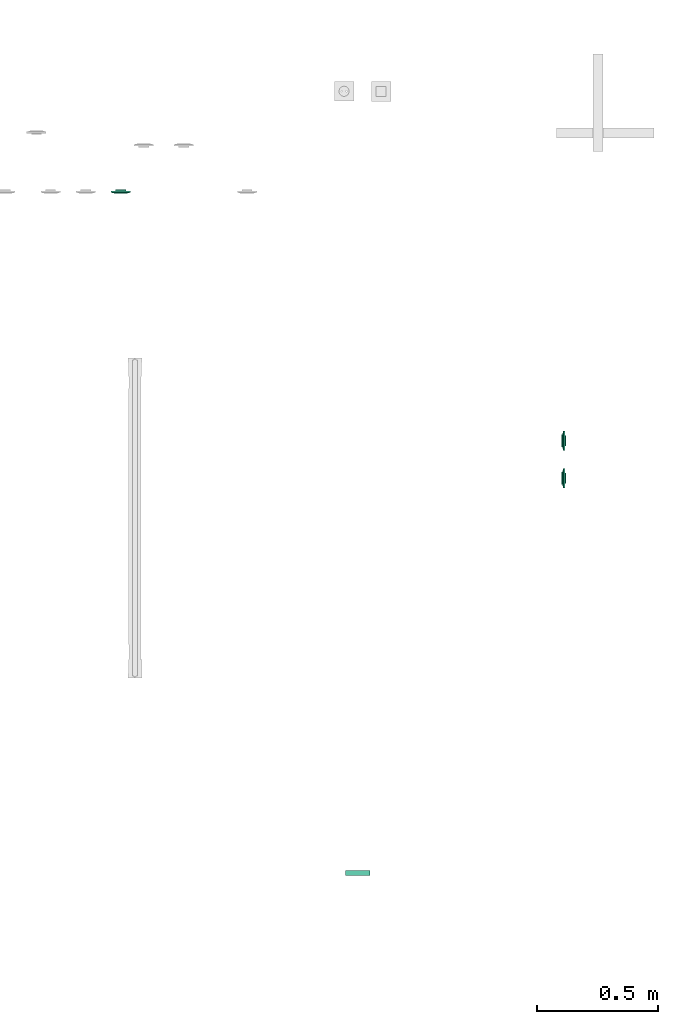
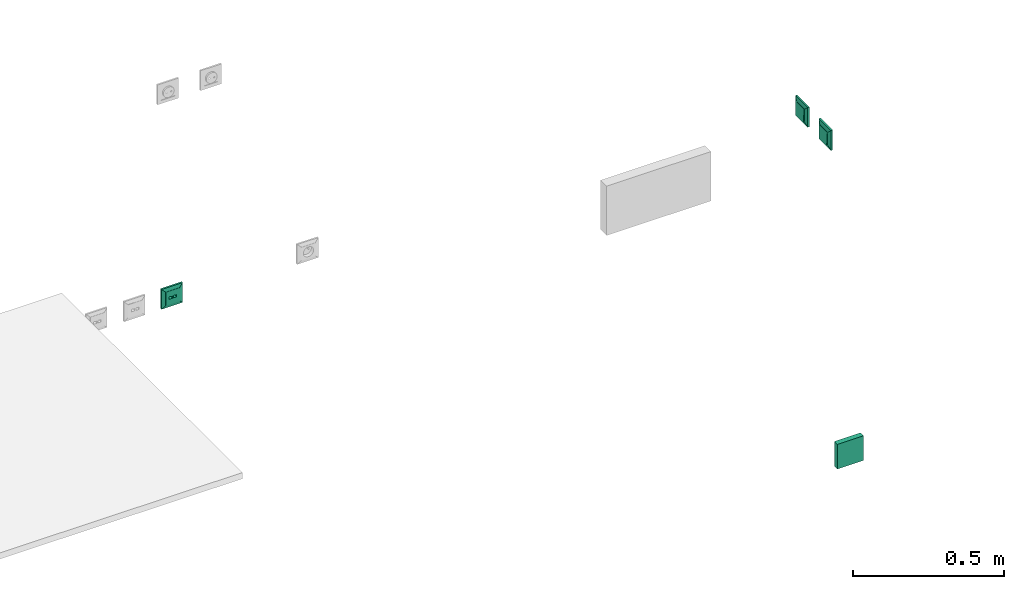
# One storey, part 54 of 146: 4 flow terminals.
"""IFC2X3 building model written with IfcOpenShell, lengths in metres."""

from ifc_helpers import new_model, entity, si_unit, converted_unit, derived_unit, direction, frame, origin, origin_2d_with_axis, place, context, subcontext, project, spatial, rectangle, extrude, faceted_brep, source, transform, mapped, type_object, type_shapes, element, save


model = new_model("IFC2X3")

# Units and contexts
model_context = context("Model", 3, precision=1e-05, world=origin(), true_north=direction((6.12303176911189e-17, 1.0)))
body_context = subcontext(model_context, "Body", "Model", "MODEL_VIEW")
ifc_project = project(units=[si_unit("LENGTHUNIT", "METRE"), si_unit("AREAUNIT", "SQUARE_METRE"), si_unit("VOLUMEUNIT", "CUBIC_METRE"), converted_unit("PLANEANGLEUNIT", "DEGREE", entity("IfcRatioMeasure", 0.0174532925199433), si_unit("PLANEANGLEUNIT", "RADIAN"), dimensions=[0, 0, 0, 0, 0, 0, 0]), si_unit("MASSUNIT", "GRAM", prefix="KILO"), derived_unit("MASSDENSITYUNIT", [(si_unit("MASSUNIT", "GRAM", prefix="KILO"), 1), (si_unit("LENGTHUNIT", "METRE"), -3)]), si_unit("TIMEUNIT", "SECOND"), si_unit("FREQUENCYUNIT", "HERTZ"), si_unit("THERMODYNAMICTEMPERATUREUNIT", "DEGREE_CELSIUS"), derived_unit("THERMALTRANSMITTANCEUNIT", [(si_unit("MASSUNIT", "GRAM", prefix="KILO"), 1), (si_unit("THERMODYNAMICTEMPERATUREUNIT", "KELVIN"), -1), (si_unit("TIMEUNIT", "SECOND"), -3)]), derived_unit("VOLUMETRICFLOWRATEUNIT", [(si_unit("LENGTHUNIT", "METRE"), 3), (si_unit("TIMEUNIT", "SECOND"), -1)]), si_unit("ELECTRICCURRENTUNIT", "AMPERE"), si_unit("ELECTRICVOLTAGEUNIT", "VOLT"), si_unit("POWERUNIT", "WATT"), si_unit("FORCEUNIT", "NEWTON"), si_unit("ILLUMINANCEUNIT", "LUX"), si_unit("LUMINOUSFLUXUNIT", "LUMEN"), si_unit("LUMINOUSINTENSITYUNIT", "CANDELA"), derived_unit("USERDEFINED", [(si_unit("MASSUNIT", "GRAM", prefix="KILO"), -1), (si_unit("LENGTHUNIT", "METRE"), -2), (si_unit("TIMEUNIT", "SECOND"), 3), (si_unit("LUMINOUSFLUXUNIT", "LUMEN"), 1)]), derived_unit("LINEARVELOCITYUNIT", [(si_unit("LENGTHUNIT", "METRE"), 1), (si_unit("TIMEUNIT", "SECOND"), -1)]), si_unit("PRESSUREUNIT", "PASCAL"), derived_unit("USERDEFINED", [(si_unit("LENGTHUNIT", "METRE"), -2), (si_unit("MASSUNIT", "GRAM", prefix="KILO"), 1), (si_unit("TIMEUNIT", "SECOND"), -2)])], contexts=[model_context])

# Site, building, storey
site_placement = place(None, origin())
site = spatial("IfcSite", under=ifc_project, at=site_placement, Name="Default", CompositionType="ELEMENT")
building_placement = place(site_placement, origin())
building = spatial("IfcBuilding", under=site, at=building_placement, CompositionType="ELEMENT")
storey_placement = place(building_placement, origin())
storey = spatial("IfcBuildingStorey", under=building, at=storey_placement, Name="S01", CompositionType="ELEMENT", Elevation=0.0)

# Flow terminals
electric_appliance_type = type_object("IfcElectricApplianceType", Name="RJ45 IP20", PredefinedType="NOTDEFINED")
shared_shape_1 = source(origin(), body_context, "Body", "Brep", [
    faceted_brep([(0.00200000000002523, 0.0, 0.00799999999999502), (0.00400000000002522, 0.0, 0.00799999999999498), (0.00500000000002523, 0.00199999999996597, 0.00799999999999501), (0.0110000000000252, 0.00199999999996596, 0.00799999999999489), (0.0120000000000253, 0.0, 0.00799999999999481), (0.0140000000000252, 0.0, 0.00799999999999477), (0.0140000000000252, 0.00399999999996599, 0.00799999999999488), (0.00200000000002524, 0.00399999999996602, 0.00799999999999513), (0.00200000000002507, 0.0, 0.0), (0.00200000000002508, 0.00399999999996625, 0.0), (0.0140000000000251, 0.00399999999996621, 0.0), (0.0140000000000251, 0.0, 0.0), (0.0120000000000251, 0.0, 0.0), (0.0110000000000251, 0.00199999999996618, 0.0), (0.00500000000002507, 0.0019999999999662, 0.0), (0.00400000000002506, 0.0, 0.0)], [[[0, 1, 2, 3, 4, 5, 6, 7]], [[8, 9, 10, 11, 12, 13, 14, 15]], [[1, 0, 8, 15]], [[2, 1, 15, 14]], [[3, 2, 14, 13]], [[4, 3, 13, 12]], [[5, 4, 12, 11]], [[6, 5, 11, 10]], [[7, 6, 10, 9]], [[0, 7, 9, 8]]]),
    faceted_brep([(-0.0139999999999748, 0.0, 0.00799999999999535), (-0.0119999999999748, 0.0, 0.00799999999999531), (-0.0109999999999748, 0.00199999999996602, 0.00799999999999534), (-0.00499999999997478, 0.00199999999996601, 0.00799999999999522), (-0.0039999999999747, 0.0, 0.00799999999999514), (-0.00199999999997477, 0.0, 0.0079999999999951), (-0.00199999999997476, 0.00399999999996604, 0.00799999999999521), (-0.0139999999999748, 0.00399999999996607, 0.00799999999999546), (-0.0139999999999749, 0.0, 0.0), (-0.0139999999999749, 0.00399999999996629, 0.0), (-0.00199999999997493, 0.00399999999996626, 0.0), (-0.00199999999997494, 0.0, 0.0), (-0.00399999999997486, 0.0, 0.0), (-0.00499999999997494, 0.00199999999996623, 0.0), (-0.0109999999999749, 0.00199999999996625, 0.0), (-0.0119999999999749, 0.0, 0.0)], [[[0, 1, 2, 3, 4, 5, 6, 7]], [[8, 9, 10, 11, 12, 13, 14, 15]], [[1, 0, 8, 15]], [[2, 1, 15, 14]], [[3, 2, 14, 13]], [[4, 3, 13, 12]], [[5, 4, 12, 11]], [[6, 5, 11, 10]], [[7, 6, 10, 9]], [[0, 7, 9, 8]]]),
    faceted_brep([(0.0140000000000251, 0.00399999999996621, 0.0), (0.00200000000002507, 0.00399999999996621, 0.0), (0.00200000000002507, -0.00350000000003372, 0.0), (0.0140000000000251, -0.00350000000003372, 0.0), (0.0140000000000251, 0.00399999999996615, 0.00199999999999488), (0.00200000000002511, 0.00399999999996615, 0.00199999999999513), (0.00200000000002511, -0.00393859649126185, 0.00199999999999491), (0.0140000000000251, -0.00393859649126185, 0.00199999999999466), (0.0210000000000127, 0.0209999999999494, 0.00199999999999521), (-0.0209999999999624, 0.0209999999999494, 0.00199999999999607), (-0.0209999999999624, -0.0210000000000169, 0.00199999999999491), (0.0210000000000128, -0.0210000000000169, 0.00199999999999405), (-0.0139999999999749, 0.0039999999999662, 0.00199999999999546), (-0.0019999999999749, 0.0039999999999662, 0.00199999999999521), (-0.00199999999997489, -0.0039385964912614, 0.00199999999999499), (-0.0139999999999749, -0.00393859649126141, 0.00199999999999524), (0.0210000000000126, 0.0209999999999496, -0.00460000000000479), (0.0210000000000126, -0.0210000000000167, -0.00460000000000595), (-0.0209999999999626, -0.0210000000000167, -0.00460000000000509), (-0.0209999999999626, 0.0209999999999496, -0.00460000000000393), (-0.00199999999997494, 0.00399999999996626, 0.0), (-0.0139999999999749, 0.00399999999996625, 0.0), (-0.0139999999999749, -0.00350000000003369, 0.0), (-0.00199999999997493, -0.00350000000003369, 0.0)], [[[0, 1, 2, 3]], [[1, 0, 4, 5]], [[2, 1, 5, 6]], [[3, 2, 6, 7]], [[0, 3, 7, 4]], [[5, 4, 7, 6], [8, 9, 10, 11], [12, 13, 14, 15]], [[16, 17, 18, 19]], [[9, 8, 16, 19]], [[10, 9, 19, 18]], [[11, 10, 18, 17]], [[8, 11, 17, 16]], [[20, 21, 22, 23]], [[21, 20, 13, 12]], [[22, 21, 12, 15]], [[23, 22, 15, 14]], [[20, 23, 14, 13]]], outer=[[True], [True], [True], [True], [True], [False, True, False], [True], [True], [True], [True], [True], [True], [True], [True], [True], [True]]),
    faceted_brep([(0.0270000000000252, 0.026999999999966, 0.0113999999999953), (-0.0269999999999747, 0.026999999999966, 0.0113999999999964), (-0.0269999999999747, -0.0270000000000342, 0.0113999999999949), (0.0270000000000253, -0.0270000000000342, 0.0113999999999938), (0.0020000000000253, 0.00399999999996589, 0.0113999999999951), (0.0140000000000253, 0.00399999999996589, 0.0113999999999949), (0.0140000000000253, -0.00600000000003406, 0.0113999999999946), (0.0020000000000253, -0.00600000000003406, 0.0113999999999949), (-0.0139999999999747, 0.00399999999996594, 0.0113999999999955), (-0.00199999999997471, 0.00399999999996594, 0.0113999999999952), (-0.00199999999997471, -0.0060000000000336, 0.0113999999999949), (-0.0139999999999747, -0.00600000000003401, 0.0113999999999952), (0.0270000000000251, 0.0269999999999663, 0.00199999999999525), (0.0270000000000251, -0.0270000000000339, 0.00199999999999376), (-0.0269999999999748, -0.0270000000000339, 0.00199999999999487), (-0.0269999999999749, 0.0269999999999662, 0.00199999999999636), (0.0140000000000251, 0.00399999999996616, 0.00199999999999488), (0.00200000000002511, 0.00399999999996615, 0.00199999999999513), (0.00200000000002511, -0.00393859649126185, 0.00199999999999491), (0.0140000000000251, -0.00393859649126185, 0.00199999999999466), (-0.00199999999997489, 0.0039999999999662, 0.00199999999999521), (-0.0139999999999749, 0.0039999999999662, 0.00199999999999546), (-0.0139999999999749, -0.0039385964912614, 0.00199999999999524), (-0.00199999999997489, -0.0039385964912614, 0.00199999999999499)], [[[0, 1, 2, 3], [4, 5, 6, 7], [8, 9, 10, 11]], [[12, 13, 14, 15], [16, 17, 18, 19], [20, 21, 22, 23]], [[1, 0, 12, 15]], [[2, 1, 15, 14]], [[3, 2, 14, 13]], [[0, 3, 13, 12]], [[4, 17, 16, 5]], [[17, 4, 7, 18]], [[18, 7, 6, 19]], [[5, 16, 19, 6]], [[8, 21, 20, 9]], [[21, 8, 11, 22]], [[22, 11, 10, 23]], [[9, 20, 23, 10]]]),
    faceted_brep([(0.027000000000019, 0.0269999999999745, 0.00659999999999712), (-0.0269999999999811, 0.0269999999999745, 0.00659999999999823), (-0.026999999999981, -0.0270000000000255, 0.00659999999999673), (0.027000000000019, -0.0270000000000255, 0.00659999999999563), (0.040350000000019, 0.0403499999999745, 0.00659999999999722), (0.040350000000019, -0.0403500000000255, 0.00659999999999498), (-0.0403499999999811, -0.0403500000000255, 0.00659999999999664), (-0.0403499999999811, 0.0403499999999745, 0.00659999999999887), (-0.026999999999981, 0.0269999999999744, 0.0103999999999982), (0.027000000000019, 0.0269999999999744, 0.0103999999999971), (-0.026999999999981, -0.0270000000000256, 0.0103999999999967), (0.027000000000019, -0.0270000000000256, 0.0103999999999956)], [[[0, 1, 2, 3], [4, 5, 6, 7]], [[4, 7, 8, 9]], [[7, 6, 10, 8]], [[6, 5, 11, 10]], [[5, 4, 9, 11]], [[0, 9, 8, 1]], [[1, 8, 10, 2]], [[2, 10, 11, 3]], [[9, 0, 3, 11]]], outer=[[False, True], [True], [True], [True], [True], [True], [True], [True], [True]]),
    faceted_brep([(0.040350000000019, 0.0403499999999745, 0.00659999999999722), (-0.0403499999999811, 0.0403499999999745, 0.00659999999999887), (-0.0403499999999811, -0.0403500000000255, 0.00659999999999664), (0.040350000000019, -0.0403500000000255, 0.00659999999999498), (-0.0269999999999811, 0.0269999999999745, 0.00659999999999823), (0.0270000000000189, 0.0269999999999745, 0.00659999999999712), (0.0270000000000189, -0.0270000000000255, 0.00659999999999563), (-0.0269999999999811, -0.0270000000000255, 0.00659999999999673), (0.0403500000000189, 0.0403499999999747, 0.0), (0.0403500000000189, -0.0403500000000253, 0.0), (-0.0403499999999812, -0.0403500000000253, 0.0), (-0.0403499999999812, 0.0403499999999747, 0.0), (0.0270000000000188, 0.0269999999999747, 0.0), (-0.0269999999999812, 0.0269999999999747, 0.0), (-0.0269999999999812, -0.0270000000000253, 0.0), (0.0270000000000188, -0.0270000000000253, 0.0)], [[[0, 1, 2, 3], [4, 5, 6, 7]], [[8, 9, 10, 11], [12, 13, 14, 15]], [[1, 0, 8, 11]], [[2, 1, 11, 10]], [[3, 2, 10, 9]], [[0, 3, 9, 8]], [[12, 5, 4, 13]], [[13, 4, 7, 14]], [[14, 7, 6, 15]], [[5, 12, 15, 6]]]),
])
type_shapes(electric_appliance_type, [shared_shape_1])
flow_terminal_1_placement = place(storey_placement, frame((51.6023114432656, -190.689444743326, 0.320000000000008), z_axis=(0.0, -1.0, 0.0), x_axis=(1.0, 0.0, 0.0)))
element("IfcFlowTerminal", 1, at=flow_terminal_1_placement, inside=storey, type_object=electric_appliance_type, Name="INT_Prise RJ45:RJ45 IP20", ObjectType="INT_Prise RJ45:RJ45 IP20", context=body_context, shape_type="MappedRepresentation", body=[
    mapped(shared_shape_1, transform((0.0, 0.0, 0.0), scale=1.0)),
])
light_fixture_type_1 = type_object("IfcLightFixtureType", Name="Default", PredefinedType="NOTDEFINED")
shared_shape_2 = source(origin(), body_context, "Body", "SweptSolid", [
    extrude(rectangle(XDim=0.1, YDim=0.1, at=origin_2d_with_axis()), frame((0.0, 0.0, 0.0), z_axis=(0.0, 0.0, 1.0), x_axis=(0.0, 1.0, 0.0)), (0.0, 0.0, 1.0), 0.02),
])
type_shapes(light_fixture_type_1, [shared_shape_2])
flow_terminal_2_placement = place(storey_placement, frame((52.5782599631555, -193.489651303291, 1.05000000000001), z_axis=(0.0, -1.0, 0.0), x_axis=(1.0, 0.0, 0.0)))
element("IfcFlowTerminal", 2, at=flow_terminal_2_placement, inside=storey, type_object=light_fixture_type_1, Name="E_Reader_Badge 1_F_MEPcontent:Default", ObjectType="E_Reader_Badge 1_F_MEPcontent:Default", context=body_context, shape_type="MappedRepresentation", body=[
    mapped(shared_shape_2, transform((0.0, 0.0, 0.0), scale=1.0)),
])
light_fixture_type_2 = type_object("IfcLightFixtureType", Name="SA IP21", PredefinedType="NOTDEFINED")
shared_shape_3 = source(origin(), body_context, "Body", "Brep", [
    faceted_brep([(0.0, 0.0209999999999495, -0.00460000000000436), (0.00543519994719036, 0.02028444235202, -0.00460000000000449), (0.0105000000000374, 0.0181865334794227, -0.00460000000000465), (0.0148492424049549, 0.014849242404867, -0.00460000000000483), (0.0181865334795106, 0.0104999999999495, -0.00460000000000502), (0.0202844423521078, 0.00543519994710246, -0.00460000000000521), (0.0210000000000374, 0.0, -0.00460000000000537), (0.0202844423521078, -0.00543519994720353, -0.00460000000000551), (0.0181865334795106, -0.0105000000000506, -0.0046000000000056), (0.0148492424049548, -0.0148492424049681, -0.00460000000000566), (0.0105000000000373, -0.0181865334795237, -0.00460000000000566), (0.00543519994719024, -0.0202844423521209, -0.00460000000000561), (0.0, -0.0210000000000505, -0.00460000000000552), (-0.00543519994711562, -0.0202844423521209, -0.00460000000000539), (-0.0104999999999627, -0.0181865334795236, -0.00460000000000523), (-0.0148492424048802, -0.0148492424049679, -0.00460000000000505), (-0.0181865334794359, -0.0105000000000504, -0.00460000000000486), (-0.0202844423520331, -0.00543519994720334, -0.00460000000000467), (-0.0209999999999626, 0.0, -0.00460000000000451), (-0.020284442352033, 0.00543519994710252, -0.00460000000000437), (-0.0181865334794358, 0.0104999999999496, -0.00460000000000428), (-0.0148492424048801, 0.0148492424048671, -0.00460000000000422), (-0.0104999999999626, 0.0181865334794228, -0.00460000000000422), (-0.00543519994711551, 0.02028444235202, -0.00460000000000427), (-0.020284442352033, -0.00543519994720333, 0.0), (-0.0209999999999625, 0.0, 0.0), (-0.0181865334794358, -0.0105000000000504, 0.0), (-0.0104999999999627, -0.0181865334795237, 0.0), (-0.0148492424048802, -0.0148492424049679, 0.0), (-0.00543519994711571, -0.020284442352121, 0.0), (0.0, -0.0210000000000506, 0.0), (0.00543519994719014, -0.0202844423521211, 0.0), (0.0105000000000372, -0.018186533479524, 0.0), (0.0181865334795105, -0.0105000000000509, 0.0), (0.0148492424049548, -0.0148492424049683, 0.0), (0.0202844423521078, -0.00543519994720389, 0.0), (0.0210000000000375, 0.0, 0.0), (0.0202844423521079, 0.00543519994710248, 0.0), (0.0181865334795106, 0.0104999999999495, 0.0), (0.0105000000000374, 0.0181865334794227, 0.0), (0.0148492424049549, 0.014849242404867, 0.0), (0.00543519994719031, 0.0202844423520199, 0.0), (0.0, 0.0209999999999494, 0.0), (-0.00543519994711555, 0.0202844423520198, 0.0), (-0.0104999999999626, 0.0181865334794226, 0.0), (-0.0181865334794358, 0.0104999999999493, 0.0), (-0.0148492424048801, 0.0148492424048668, 0.0), (-0.020284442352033, 0.00543519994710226, 0.0)], [[[0, 1, 2, 3, 4, 5, 6, 7, 8, 9, 10, 11, 12, 13, 14, 15, 16, 17, 18, 19, 20, 21, 22, 23]], [[17, 24, 25, 18]], [[16, 26, 24, 17]], [[27, 28, 15, 14]], [[16, 15, 28, 26]], [[29, 27, 14, 13]], [[30, 29, 13, 12]], [[11, 31, 30, 12]], [[10, 32, 31, 11]], [[33, 34, 9, 8]], [[10, 9, 34, 32]], [[35, 33, 8, 7]], [[36, 35, 7, 6]], [[5, 37, 36, 6]], [[4, 38, 37, 5]], [[39, 40, 3, 2]], [[4, 3, 40, 38]], [[41, 39, 2, 1]], [[42, 41, 1, 0]], [[23, 43, 42, 0]], [[22, 44, 43, 23]], [[45, 46, 21, 20]], [[22, 21, 46, 44]], [[47, 45, 20, 19]], [[25, 47, 19, 18]], [[25, 24, 26, 28, 27, 29, 30, 31, 32, 34, 33, 35, 36, 37, 38, 40, 39, 41, 42, 43, 44, 46, 45, 47]]]),
    faceted_brep([(0.0270000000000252, 0.026999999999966, 0.0103999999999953), (-0.0269999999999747, 0.026999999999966, 0.0103999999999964), (-0.0269999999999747, -0.0270000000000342, 0.0103999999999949), (0.0270000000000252, -0.0270000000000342, 0.0103999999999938), (-0.0254999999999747, 0.0258096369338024, 0.0103999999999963), (0.0255000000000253, 0.0258096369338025, 0.0103999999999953), (0.0255000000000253, -0.0255000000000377, 0.0103999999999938), (-0.0254999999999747, -0.0255000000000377, 0.0103999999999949), (0.0270000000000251, 0.0269999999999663, 0.00199999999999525), (0.0270000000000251, -0.0270000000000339, 0.00199999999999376), (-0.0269999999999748, -0.0270000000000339, 0.00199999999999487), (-0.0269999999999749, 0.0269999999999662, 0.00199999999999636), (0.0255000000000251, 0.0258096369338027, 0.00199999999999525), (-0.0254999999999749, 0.0258096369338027, 0.0019999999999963), (-0.0254999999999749, -0.0255000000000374, 0.00199999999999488), (0.0255000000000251, -0.0255000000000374, 0.00199999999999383)], [[[0, 1, 2, 3], [4, 5, 6, 7]], [[8, 9, 10, 11], [12, 13, 14, 15]], [[1, 0, 8, 11]], [[2, 1, 11, 10]], [[3, 2, 10, 9]], [[0, 3, 9, 8]], [[12, 5, 4, 13]], [[13, 4, 7, 14]], [[14, 7, 6, 15]], [[5, 12, 15, 6]]]),
    faceted_brep([(0.0250000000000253, 0.0253096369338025, 0.00659999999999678), (0.0250000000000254, 0.0253096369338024, 0.0117095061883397), (0.0250000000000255, -0.0245000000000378, 0.0142232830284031), (0.0250000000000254, -0.0250000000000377, 0.0117095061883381), (0.0250000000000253, -0.0250000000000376, 0.00659999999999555), (-0.0249999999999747, 0.0253096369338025, 0.00659999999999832), (-0.0249999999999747, -0.0250000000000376, 0.00659999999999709), (-0.0249999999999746, -0.0250000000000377, 0.0117095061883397), (-0.0249999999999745, -0.0245000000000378, 0.0142232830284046), (-0.0249999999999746, 0.0253096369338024, 0.0117095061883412)], [[[0, 1, 2, 3, 4]], [[5, 6, 7, 8, 9]], [[1, 0, 5, 9]], [[2, 1, 9, 8]], [[3, 2, 8, 7]], [[4, 3, 7, 6]], [[0, 4, 6, 5]]]),
    faceted_brep([(0.027000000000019, 0.0269999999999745, 0.00659999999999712), (-0.0269999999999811, 0.0269999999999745, 0.00659999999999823), (-0.026999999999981, -0.0270000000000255, 0.00659999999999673), (0.027000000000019, -0.0270000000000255, 0.00659999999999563), (0.040350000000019, 0.0403499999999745, 0.00659999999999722), (0.040350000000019, -0.0403500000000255, 0.00659999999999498), (-0.0403499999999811, -0.0403500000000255, 0.00659999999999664), (-0.0403499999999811, 0.0403499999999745, 0.00659999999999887), (-0.026999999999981, 0.0269999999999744, 0.0103999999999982), (0.027000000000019, 0.0269999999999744, 0.0103999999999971), (-0.026999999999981, -0.0270000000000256, 0.0103999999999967), (0.027000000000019, -0.0270000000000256, 0.0103999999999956)], [[[0, 1, 2, 3], [4, 5, 6, 7]], [[4, 7, 8, 9]], [[7, 6, 10, 8]], [[6, 5, 11, 10]], [[5, 4, 9, 11]], [[0, 9, 8, 1]], [[1, 8, 10, 2]], [[2, 10, 11, 3]], [[9, 0, 3, 11]]], outer=[[False, True], [True], [True], [True], [True], [True], [True], [True], [True]]),
    faceted_brep([(0.040350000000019, 0.0403499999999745, 0.00659999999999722), (-0.0403499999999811, 0.0403499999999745, 0.00659999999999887), (-0.0403499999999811, -0.0403500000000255, 0.00659999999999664), (0.040350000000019, -0.0403500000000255, 0.00659999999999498), (-0.0269999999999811, 0.0269999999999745, 0.00659999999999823), (0.0270000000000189, 0.0269999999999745, 0.00659999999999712), (0.0270000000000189, -0.0270000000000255, 0.00659999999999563), (-0.0269999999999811, -0.0270000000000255, 0.00659999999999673), (0.0403500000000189, 0.0403499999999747, 0.0), (0.0403500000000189, -0.0403500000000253, 0.0), (-0.0403499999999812, -0.0403500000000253, 0.0), (-0.0403499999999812, 0.0403499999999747, 0.0), (0.0270000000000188, 0.0269999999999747, 0.0), (-0.0269999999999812, 0.0269999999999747, 0.0), (-0.0269999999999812, -0.0270000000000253, 0.0), (0.0270000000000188, -0.0270000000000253, 0.0)], [[[0, 1, 2, 3], [4, 5, 6, 7]], [[8, 9, 10, 11], [12, 13, 14, 15]], [[1, 0, 8, 11]], [[2, 1, 11, 10]], [[3, 2, 10, 9]], [[0, 3, 9, 8]], [[12, 5, 4, 13]], [[13, 4, 7, 14]], [[14, 7, 6, 15]], [[5, 12, 15, 6]]]),
])
type_shapes(light_fixture_type_2, [shared_shape_3])
flow_terminal_3_placement = place(building_placement, frame((53.4317436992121, -191.873432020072, 1.05000000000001), z_axis=(-1.0, 0.0, 0.0), x_axis=(0.0, -1.0, 0.0)))
element("IfcFlowTerminal", 3, at=flow_terminal_3_placement, inside=storey, type_object=light_fixture_type_2, Name="INT_Inter SA:SA IP21", ObjectType="INT_Inter SA:SA IP21", context=body_context, shape_type="MappedRepresentation", body=[
    mapped(shared_shape_3, transform((0.0, 0.0, 0.0), scale=1.0)),
])
light_fixture_type_3 = type_object("IfcLightFixtureType", Name="BP IP21", PredefinedType="NOTDEFINED")
shared_shape_4 = source(origin(), body_context, "Body", "Brep", [
    faceted_brep([(0.0, 0.0209999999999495, -0.00460000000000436), (0.00543519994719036, 0.02028444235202, -0.00460000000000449), (0.0105000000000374, 0.0181865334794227, -0.00460000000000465), (0.0148492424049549, 0.014849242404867, -0.00460000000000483), (0.0181865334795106, 0.0104999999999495, -0.00460000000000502), (0.0202844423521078, 0.00543519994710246, -0.00460000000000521), (0.0210000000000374, 0.0, -0.00460000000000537), (0.0202844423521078, -0.00543519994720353, -0.00460000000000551), (0.0181865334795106, -0.0105000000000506, -0.0046000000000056), (0.0148492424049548, -0.0148492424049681, -0.00460000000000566), (0.0105000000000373, -0.0181865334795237, -0.00460000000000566), (0.00543519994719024, -0.0202844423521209, -0.00460000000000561), (0.0, -0.0210000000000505, -0.00460000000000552), (-0.00543519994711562, -0.0202844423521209, -0.00460000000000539), (-0.0104999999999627, -0.0181865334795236, -0.00460000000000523), (-0.0148492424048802, -0.0148492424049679, -0.00460000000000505), (-0.0181865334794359, -0.0105000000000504, -0.00460000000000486), (-0.0202844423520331, -0.00543519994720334, -0.00460000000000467), (-0.0209999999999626, 0.0, -0.00460000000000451), (-0.020284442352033, 0.00543519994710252, -0.00460000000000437), (-0.0181865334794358, 0.0104999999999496, -0.00460000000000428), (-0.0148492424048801, 0.0148492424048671, -0.00460000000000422), (-0.0104999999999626, 0.0181865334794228, -0.00460000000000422), (-0.00543519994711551, 0.02028444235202, -0.00460000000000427), (-0.020284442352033, -0.00543519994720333, 0.0), (-0.0209999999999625, 0.0, 0.0), (-0.0181865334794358, -0.0105000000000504, 0.0), (-0.0104999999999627, -0.0181865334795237, 0.0), (-0.0148492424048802, -0.0148492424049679, 0.0), (-0.00543519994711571, -0.020284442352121, 0.0), (0.0, -0.0210000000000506, 0.0), (0.00543519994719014, -0.0202844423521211, 0.0), (0.0105000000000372, -0.018186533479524, 0.0), (0.0181865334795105, -0.0105000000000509, 0.0), (0.0148492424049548, -0.0148492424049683, 0.0), (0.0202844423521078, -0.00543519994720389, 0.0), (0.0210000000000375, 0.0, 0.0), (0.0202844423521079, 0.00543519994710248, 0.0), (0.0181865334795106, 0.0104999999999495, 0.0), (0.0105000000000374, 0.0181865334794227, 0.0), (0.0148492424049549, 0.014849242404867, 0.0), (0.00543519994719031, 0.0202844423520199, 0.0), (0.0, 0.0209999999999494, 0.0), (-0.00543519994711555, 0.0202844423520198, 0.0), (-0.0104999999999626, 0.0181865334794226, 0.0), (-0.0181865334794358, 0.0104999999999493, 0.0), (-0.0148492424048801, 0.0148492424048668, 0.0), (-0.020284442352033, 0.00543519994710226, 0.0)], [[[0, 1, 2, 3, 4, 5, 6, 7, 8, 9, 10, 11, 12, 13, 14, 15, 16, 17, 18, 19, 20, 21, 22, 23]], [[17, 24, 25, 18]], [[16, 26, 24, 17]], [[27, 28, 15, 14]], [[16, 15, 28, 26]], [[29, 27, 14, 13]], [[30, 29, 13, 12]], [[11, 31, 30, 12]], [[10, 32, 31, 11]], [[33, 34, 9, 8]], [[10, 9, 34, 32]], [[35, 33, 8, 7]], [[36, 35, 7, 6]], [[5, 37, 36, 6]], [[4, 38, 37, 5]], [[39, 40, 3, 2]], [[4, 3, 40, 38]], [[41, 39, 2, 1]], [[42, 41, 1, 0]], [[23, 43, 42, 0]], [[22, 44, 43, 23]], [[45, 46, 21, 20]], [[22, 21, 46, 44]], [[47, 45, 20, 19]], [[25, 47, 19, 18]], [[25, 24, 26, 28, 27, 29, 30, 31, 32, 34, 33, 35, 36, 37, 38, 40, 39, 41, 42, 43, 44, 46, 45, 47]]]),
    faceted_brep([(0.0270000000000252, 0.026999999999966, 0.0103999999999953), (-0.0269999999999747, 0.026999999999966, 0.0103999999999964), (-0.0269999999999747, -0.0270000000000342, 0.0103999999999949), (0.0270000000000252, -0.0270000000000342, 0.0103999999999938), (-0.0254999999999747, 0.0258096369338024, 0.0103999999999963), (0.0255000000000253, 0.0258096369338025, 0.0103999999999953), (0.0255000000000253, -0.0255000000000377, 0.0103999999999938), (-0.0254999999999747, -0.0255000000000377, 0.0103999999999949), (0.0270000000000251, 0.0269999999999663, 0.00199999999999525), (0.0270000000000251, -0.0270000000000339, 0.00199999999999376), (-0.0269999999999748, -0.0270000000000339, 0.00199999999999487), (-0.0269999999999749, 0.0269999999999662, 0.00199999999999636), (0.0255000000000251, 0.0258096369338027, 0.00199999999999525), (-0.0254999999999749, 0.0258096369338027, 0.0019999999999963), (-0.0254999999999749, -0.0255000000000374, 0.00199999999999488), (0.0255000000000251, -0.0255000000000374, 0.00199999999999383)], [[[0, 1, 2, 3], [4, 5, 6, 7]], [[8, 9, 10, 11], [12, 13, 14, 15]], [[1, 0, 8, 11]], [[2, 1, 11, 10]], [[3, 2, 10, 9]], [[0, 3, 9, 8]], [[12, 5, 4, 13]], [[13, 4, 7, 14]], [[14, 7, 6, 15]], [[5, 12, 15, 6]]]),
    faceted_brep([(0.0250000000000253, 0.0253096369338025, 0.00659999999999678), (0.0250000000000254, 0.0253096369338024, 0.0117095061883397), (0.0250000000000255, -0.0245000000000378, 0.0142232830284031), (0.0250000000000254, -0.0250000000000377, 0.0117095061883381), (0.0250000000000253, -0.0250000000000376, 0.00659999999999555), (-0.0249999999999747, 0.0253096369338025, 0.00659999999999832), (-0.0249999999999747, -0.0250000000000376, 0.00659999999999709), (-0.0249999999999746, -0.0250000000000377, 0.0117095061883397), (-0.0249999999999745, -0.0245000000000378, 0.0142232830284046), (-0.0249999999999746, 0.0253096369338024, 0.0117095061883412)], [[[0, 1, 2, 3, 4]], [[5, 6, 7, 8, 9]], [[1, 0, 5, 9]], [[2, 1, 9, 8]], [[3, 2, 8, 7]], [[4, 3, 7, 6]], [[0, 4, 6, 5]]]),
    faceted_brep([(0.027000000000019, 0.0269999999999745, 0.00659999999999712), (-0.0269999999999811, 0.0269999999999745, 0.00659999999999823), (-0.026999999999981, -0.0270000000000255, 0.00659999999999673), (0.027000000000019, -0.0270000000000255, 0.00659999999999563), (0.040350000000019, 0.0403499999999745, 0.00659999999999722), (0.040350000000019, -0.0403500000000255, 0.00659999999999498), (-0.0403499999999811, -0.0403500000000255, 0.00659999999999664), (-0.0403499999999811, 0.0403499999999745, 0.00659999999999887), (-0.026999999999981, 0.0269999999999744, 0.0103999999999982), (0.027000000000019, 0.0269999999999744, 0.0103999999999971), (-0.026999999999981, -0.0270000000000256, 0.0103999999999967), (0.027000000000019, -0.0270000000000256, 0.0103999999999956)], [[[0, 1, 2, 3], [4, 5, 6, 7]], [[4, 7, 8, 9]], [[7, 6, 10, 8]], [[6, 5, 11, 10]], [[5, 4, 9, 11]], [[0, 9, 8, 1]], [[1, 8, 10, 2]], [[2, 10, 11, 3]], [[9, 0, 3, 11]]], outer=[[False, True], [True], [True], [True], [True], [True], [True], [True], [True]]),
    faceted_brep([(0.040350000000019, 0.0403499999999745, 0.00659999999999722), (-0.0403499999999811, 0.0403499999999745, 0.00659999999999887), (-0.0403499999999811, -0.0403500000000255, 0.00659999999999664), (0.040350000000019, -0.0403500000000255, 0.00659999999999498), (-0.0269999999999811, 0.0269999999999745, 0.00659999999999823), (0.0270000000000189, 0.0269999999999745, 0.00659999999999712), (0.0270000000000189, -0.0270000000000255, 0.00659999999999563), (-0.0269999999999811, -0.0270000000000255, 0.00659999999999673), (0.0403500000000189, 0.0403499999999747, 0.0), (0.0403500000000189, -0.0403500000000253, 0.0), (-0.0403499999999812, -0.0403500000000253, 0.0), (-0.0403499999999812, 0.0403499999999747, 0.0), (0.0270000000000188, 0.0269999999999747, 0.0), (-0.0269999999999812, 0.0269999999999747, 0.0), (-0.0269999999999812, -0.0270000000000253, 0.0), (0.0270000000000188, -0.0270000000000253, 0.0)], [[[0, 1, 2, 3], [4, 5, 6, 7]], [[8, 9, 10, 11], [12, 13, 14, 15]], [[1, 0, 8, 11]], [[2, 1, 11, 10]], [[3, 2, 10, 9]], [[0, 3, 9, 8]], [[12, 5, 4, 13]], [[13, 4, 7, 14]], [[14, 7, 6, 15]], [[5, 12, 15, 6]]]),
])
type_shapes(light_fixture_type_3, [shared_shape_4])
flow_terminal_4_placement = place(building_placement, frame((53.4317436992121, -191.718897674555, 1.05000000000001), z_axis=(-1.0, 0.0, 0.0), x_axis=(0.0, -1.0, 0.0)))
element("IfcFlowTerminal", 4, at=flow_terminal_4_placement, inside=storey, type_object=light_fixture_type_3, Name="INT_Cmd BA:BP IP21", ObjectType="INT_Cmd BA:BP IP21", context=body_context, shape_type="MappedRepresentation", body=[
    mapped(shared_shape_4, transform((0.0, 0.0, 0.0), scale=1.0)),
])

save(model, "model.ifc")
